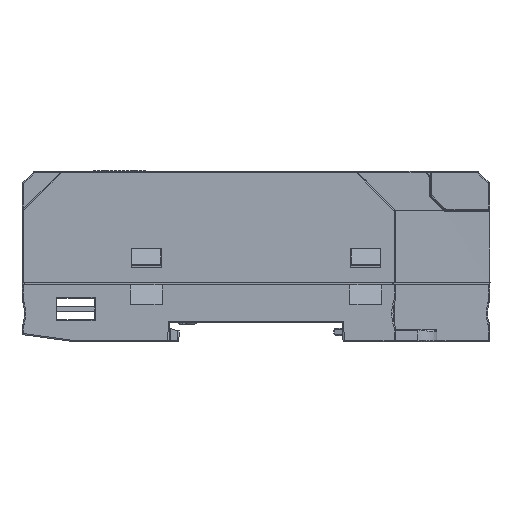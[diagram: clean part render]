
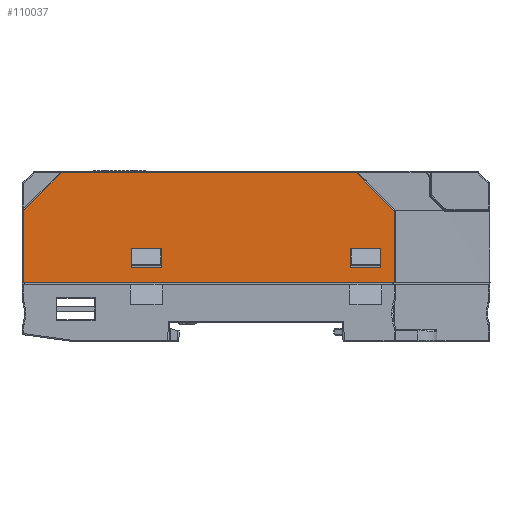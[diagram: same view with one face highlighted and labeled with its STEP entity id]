
A CAD part, left-side view. The second image highlights one B-rep face of the part: STEP entity #110037.
In plain terms, the highlighted planar face has unit normal (-1, 0, 0).
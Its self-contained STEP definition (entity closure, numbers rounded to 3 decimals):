
#16052=DIRECTION('',(0.,1.,0.));
#16053=VECTOR('',#16052,60.186);
#16054=CARTESIAN_POINT('',(-50.,-20.393,23.05));
#16055=LINE('',#16054,#16053);
#16060=CARTESIAN_POINT('',(-50.,47.5,15.093));
#16061=DIRECTION('',(1.,0.,0.));
#16062=DIRECTION('',(0.,1.,0.));
#16063=AXIS2_PLACEMENT_3D('',#16060,#16061,#16062);
#16065=DIRECTION('',(0.,-0.707,0.707));
#16066=VECTOR('',#16065,10.899);
#16067=CARTESIAN_POINT('',(-50.,47.677,15.27));
#16068=LINE('',#16067,#16066);
#16069=CARTESIAN_POINT('',(-50.,39.793,22.8));
#16070=DIRECTION('',(1.,0.,0.));
#16071=DIRECTION('',(0.,0.707,0.707));
#16072=AXIS2_PLACEMENT_3D('',#16069,#16070,#16071);
#16074=CARTESIAN_POINT('',(-50.,-20.393,22.8));
#16075=DIRECTION('',(1.,0.,0.));
#16076=DIRECTION('',(0.,0.,1.));
#16077=AXIS2_PLACEMENT_3D('',#16074,#16075,#16076);
#16079=DIRECTION('',(0.,-0.707,-0.707));
#16080=VECTOR('',#16079,10.899);
#16081=CARTESIAN_POINT('',(-50.,-20.57,22.977));
#16082=LINE('',#16081,#16080);
#16083=CARTESIAN_POINT('',(-50.,-28.1,15.093));
#16084=DIRECTION('',(1.,0.,0.));
#16085=DIRECTION('',(0.,-0.707,0.707));
#16086=AXIS2_PLACEMENT_3D('',#16083,#16084,#16085);
#16088=DIRECTION('',(0.,1.,0.));
#16089=VECTOR('',#16088,76.1);
#16090=CARTESIAN_POINT('',(-50.,-28.35,0.5));
#16091=LINE('',#16090,#16089);
#16096=DIRECTION('',(0.,0.,-1.));
#16097=VECTOR('',#16096,14.593);
#16098=CARTESIAN_POINT('',(-50.,47.75,15.093));
#16099=LINE('',#16098,#16097);
#16561=DIRECTION('',(0.,0.,1.));
#16562=VECTOR('',#16561,14.593);
#16563=CARTESIAN_POINT('',(-50.,-28.35,0.5));
#16564=LINE('',#16563,#16562);
#40723=DIRECTION('',(0.,-1.,0.));
#40724=VECTOR('',#40723,6.2);
#40725=CARTESIAN_POINT('',(-50.,25.6,7.5));
#40726=LINE('',#40725,#40724);
#40731=DIRECTION('',(0.,0.,1.));
#40732=VECTOR('',#40731,4.);
#40733=CARTESIAN_POINT('',(-50.,25.6,3.5));
#40734=LINE('',#40733,#40732);
#40739=DIRECTION('',(0.,1.,0.));
#40740=VECTOR('',#40739,6.2);
#40741=CARTESIAN_POINT('',(-50.,19.4,3.5));
#40742=LINE('',#40741,#40740);
#40747=DIRECTION('',(0.,0.,-1.));
#40748=VECTOR('',#40747,4.);
#40749=CARTESIAN_POINT('',(-50.,19.4,7.5));
#40750=LINE('',#40749,#40748);
#40755=DIRECTION('',(0.,-1.,0.));
#40756=VECTOR('',#40755,6.2);
#40757=CARTESIAN_POINT('',(-50.,-19.4,7.5));
#40758=LINE('',#40757,#40756);
#40763=DIRECTION('',(0.,0.,1.));
#40764=VECTOR('',#40763,4.);
#40765=CARTESIAN_POINT('',(-50.,-19.4,3.5));
#40766=LINE('',#40765,#40764);
#40771=DIRECTION('',(0.,1.,0.));
#40772=VECTOR('',#40771,6.2);
#40773=CARTESIAN_POINT('',(-50.,-25.6,3.5));
#40774=LINE('',#40773,#40772);
#40779=DIRECTION('',(0.,0.,-1.));
#40780=VECTOR('',#40779,4.);
#40781=CARTESIAN_POINT('',(-50.,-25.6,7.5));
#40782=LINE('',#40781,#40780);
#74070=CARTESIAN_POINT('',(-50.,-28.35,0.5));
#74071=VERTEX_POINT('',#74070);
#74072=CARTESIAN_POINT('',(-50.,-28.35,15.093));
#74073=VERTEX_POINT('',#74072);
#74081=CARTESIAN_POINT('',(-50.,47.75,0.5));
#74082=VERTEX_POINT('',#74081);
#74518=CARTESIAN_POINT('',(-50.,39.793,23.05));
#74519=VERTEX_POINT('',#74518);
#74520=CARTESIAN_POINT('',(-50.,39.97,22.977));
#74521=VERTEX_POINT('',#74520);
#74522=CARTESIAN_POINT('',(-50.,-20.393,23.05));
#74523=VERTEX_POINT('',#74522);
#74524=CARTESIAN_POINT('',(-50.,47.75,15.093));
#74525=VERTEX_POINT('',#74524);
#74526=CARTESIAN_POINT('',(-50.,47.677,15.27));
#74527=VERTEX_POINT('',#74526);
#74528=CARTESIAN_POINT('',(-50.,-20.57,22.977));
#74529=VERTEX_POINT('',#74528);
#74530=CARTESIAN_POINT('',(-50.,-28.277,15.27));
#74531=VERTEX_POINT('',#74530);
#74532=CARTESIAN_POINT('',(-50.,25.6,7.5));
#74533=CARTESIAN_POINT('',(-50.,19.4,7.5));
#74534=VERTEX_POINT('',#74532);
#74535=VERTEX_POINT('',#74533);
#74536=CARTESIAN_POINT('',(-50.,25.6,3.5));
#74537=VERTEX_POINT('',#74536);
#74538=CARTESIAN_POINT('',(-50.,19.4,3.5));
#74539=VERTEX_POINT('',#74538);
#74540=CARTESIAN_POINT('',(-50.,-19.4,7.5));
#74541=CARTESIAN_POINT('',(-50.,-25.6,7.5));
#74542=VERTEX_POINT('',#74540);
#74543=VERTEX_POINT('',#74541);
#74544=CARTESIAN_POINT('',(-50.,-19.4,3.5));
#74545=VERTEX_POINT('',#74544);
#74546=CARTESIAN_POINT('',(-50.,-25.6,3.5));
#74547=VERTEX_POINT('',#74546);
#109992=CARTESIAN_POINT('',(-50.,48.,0.));
#109993=DIRECTION('',(-1.,0.,0.));
#109994=DIRECTION('',(0.,-1.,0.));
#109995=AXIS2_PLACEMENT_3D('',#109992,#109993,#109994);
#109996=PLANE('',#109995);
#109998=ORIENTED_EDGE('',*,*,#109997,.F.);
#110000=ORIENTED_EDGE('',*,*,#109999,.T.);
#110002=ORIENTED_EDGE('',*,*,#110001,.T.);
#110003=ORIENTED_EDGE('',*,*,#109971,.T.);
#110004=ORIENTED_EDGE('',*,*,#109983,.F.);
#110006=ORIENTED_EDGE('',*,*,#110005,.T.);
#110008=ORIENTED_EDGE('',*,*,#110007,.T.);
#110010=ORIENTED_EDGE('',*,*,#110009,.T.);
#110012=ORIENTED_EDGE('',*,*,#110011,.F.);
#110014=ORIENTED_EDGE('',*,*,#110013,.T.);
#110015=EDGE_LOOP('',(#109998,#110000,#110002,#110003,#110004,#110006,#110008,
#110010,#110012,#110014));
#110016=FACE_OUTER_BOUND('',#110015,.F.);
#110018=ORIENTED_EDGE('',*,*,#110017,.F.);
#110020=ORIENTED_EDGE('',*,*,#110019,.F.);
#110022=ORIENTED_EDGE('',*,*,#110021,.F.);
#110024=ORIENTED_EDGE('',*,*,#110023,.F.);
#110025=EDGE_LOOP('',(#110018,#110020,#110022,#110024));
#110026=FACE_BOUND('',#110025,.F.);
#110028=ORIENTED_EDGE('',*,*,#110027,.F.);
#110030=ORIENTED_EDGE('',*,*,#110029,.F.);
#110032=ORIENTED_EDGE('',*,*,#110031,.F.);
#110034=ORIENTED_EDGE('',*,*,#110033,.F.);
#110035=EDGE_LOOP('',(#110028,#110030,#110032,#110034));
#110036=FACE_BOUND('',#110035,.F.);
#110037=ADVANCED_FACE('',(#110016,#110026,#110036),#109996,.T.);
#16064=CIRCLE('',#16063,0.25);
#16073=CIRCLE('',#16072,0.25);
#16078=CIRCLE('',#16077,0.25);
#16087=CIRCLE('',#16086,0.25);
#109971=EDGE_CURVE('',#74521,#74519,#16073,.T.);
#109983=EDGE_CURVE('',#74523,#74519,#16055,.T.);
#109997=EDGE_CURVE('',#74525,#74082,#16099,.T.);
#109999=EDGE_CURVE('',#74525,#74527,#16064,.T.);
#110001=EDGE_CURVE('',#74527,#74521,#16068,.T.);
#110005=EDGE_CURVE('',#74523,#74529,#16078,.T.);
#110007=EDGE_CURVE('',#74529,#74531,#16082,.T.);
#110009=EDGE_CURVE('',#74531,#74073,#16087,.T.);
#110011=EDGE_CURVE('',#74071,#74073,#16564,.T.);
#110013=EDGE_CURVE('',#74071,#74082,#16091,.T.);
#110017=EDGE_CURVE('',#74534,#74535,#40726,.T.);
#110019=EDGE_CURVE('',#74537,#74534,#40734,.T.);
#110021=EDGE_CURVE('',#74539,#74537,#40742,.T.);
#110023=EDGE_CURVE('',#74535,#74539,#40750,.T.);
#110027=EDGE_CURVE('',#74542,#74543,#40758,.T.);
#110029=EDGE_CURVE('',#74545,#74542,#40766,.T.);
#110031=EDGE_CURVE('',#74547,#74545,#40774,.T.);
#110033=EDGE_CURVE('',#74543,#74547,#40782,.T.);
